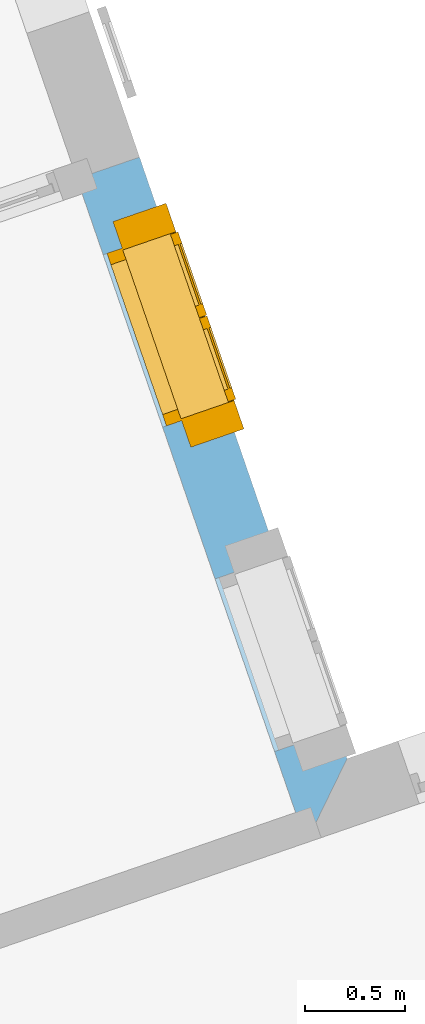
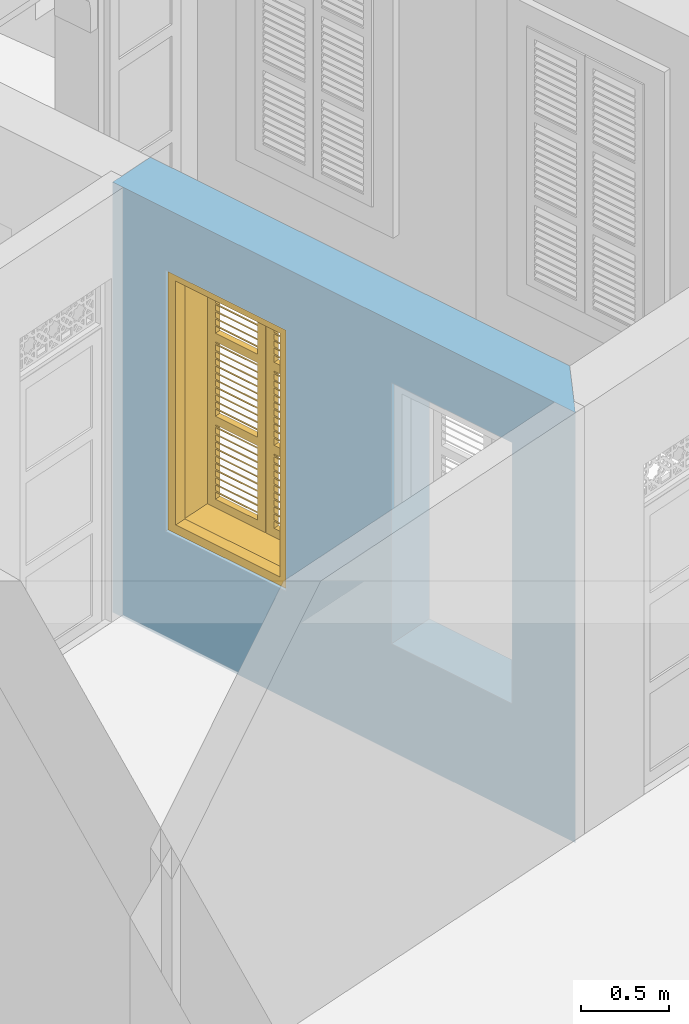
# One storey, part 8 of 16: 1 window, 2 openings, plus 1 element that does not belong to this part.
"""IFC4 building model written with IfcOpenShell, lengths in metres."""

import ifcopenshell
import ifcopenshell.guid

model = None  # the IFC model being written
_history = None  # IfcOwnerHistory: only IFC2X3 demands one
_inside = {}  # id of a spatial element -> (the spatial element, [elements in it])
_under = {}  # id of a project, library or spatial element -> (it, [spatial elements below it])
_declared = {}  # id of a project -> (the project, [libraries it declares])
_typed = {}  # id of a type object -> (the type object, [elements of that type])
_made_of = {}  # id of a material, layer set ... -> (it, [elements and type objects made of it])


def new_model(schema):
    """Start an empty IFC model of exactly this schema.

    Asked for "IFC4X3", IfcOpenShell would pick the latest addendum, in which some entities
    have other attributes; the version numbers below select the first issue.
    IFC2X3 requires an IfcOwnerHistory on every rooted entity: one is made here for all.
    """
    global model, _history
    if schema == "IFC4X3":
        model = ifcopenshell.file(schema_version=(4, 3, 0, 0))
    else:
        model = ifcopenshell.file(schema=schema)
    _inside.clear()
    _under.clear()
    _declared.clear()
    _typed.clear()
    _made_of.clear()
    _history = None
    if model.schema == "IFC2X3":
        org = make("IfcOrganization", Name="unknown")
        user = make(
            "IfcPersonAndOrganization",
            ThePerson=make("IfcPerson", FamilyName="unknown"),
            TheOrganization=org,
        )
        app = make(
            "IfcApplication",
            ApplicationDeveloper=org,
            Version="unknown",
            ApplicationFullName="unknown",
            ApplicationIdentifier="unknown",
        )
        _history = make(
            "IfcOwnerHistory",
            OwningUser=user,
            OwningApplication=app,
            ChangeAction="ADDED",
            CreationDate=0,
        )
    return model


def make(cls, **values):
    """One entity of the class cls with the attributes given. An attribute that is None is left unset."""
    return model.create_entity(
        cls, **{name: value for name, value in values.items() if value is not None}
    )


def rooted(cls, **values):
    """An entity with a GlobalId (a new one), such as an element, a storey or a relation."""
    return make(cls, GlobalId=ifcopenshell.guid.new(), OwnerHistory=_history, **values)


def si_unit(unit_type, name, prefix=None):
    """IfcSIUnit, for example si_unit("LENGTHUNIT", "METRE", prefix="MILLI")."""
    return make("IfcSIUnit", UnitType=unit_type, Prefix=prefix, Name=name)


def assignment(units):
    """IfcUnitAssignment: the units of a project."""
    return None if units is None else make("IfcUnitAssignment", Units=units)


def point(xyz):
    """IfcCartesianPoint."""
    return None if xyz is None else make("IfcCartesianPoint", Coordinates=xyz)


def direction(xyz):
    """IfcDirection."""
    return None if xyz is None else make("IfcDirection", DirectionRatios=xyz)


def frame(location, z_axis=None, x_axis=None):
    """IfcAxis2Placement3D, a coordinate frame: its origin and axes. An axis left out is left unset."""
    return make(
        "IfcAxis2Placement3D",
        Location=point(location),
        Axis=direction(z_axis),
        RefDirection=direction(x_axis),
    )


def origin():
    """The frame at (0, 0, 0) with its axes left unset."""
    return frame((0.0, 0.0, 0.0))


def origin_with_axes():
    """The frame at (0, 0, 0) with the z axis (0, 0, 1) and the x axis (1, 0, 0) written out."""
    return frame((0.0, 0.0, 0.0), z_axis=(0.0, 0.0, 1.0), x_axis=(1.0, 0.0, 0.0))


def place(relative_to, where):
    """IfcLocalPlacement: puts the frame where relative to a parent placement (None: the world)."""
    return make(
        "IfcLocalPlacement", PlacementRelTo=relative_to, RelativePlacement=where
    )


def context(
    kind, dimensions, precision=None, world=None, true_north=None, identifier=None
):
    """IfcGeometricRepresentationContext, for example the 3D "Model" context."""
    return make(
        "IfcGeometricRepresentationContext",
        ContextIdentifier=identifier,
        ContextType=kind,
        CoordinateSpaceDimension=dimensions,
        Precision=precision,
        WorldCoordinateSystem=world,
        TrueNorth=true_north,
    )


def subcontext(parent, identifier, kind, view, scale=None):
    """IfcGeometricRepresentationSubContext, for example "Body" below "Model"."""
    return make(
        "IfcGeometricRepresentationSubContext",
        ContextIdentifier=identifier,
        ContextType=kind,
        ParentContext=parent,
        TargetScale=scale,
        TargetView=view,
    )


def project(units=None, contexts=None):
    """IfcProject with its units and contexts."""
    return rooted(
        "IfcProject",
        Name="project",
        RepresentationContexts=contexts,
        UnitsInContext=assignment(units),
    )


def spatial(cls, under=None, at=None, **own):
    """A site, building, storey or space (cls), placed at a placement, below another one or the project."""
    s = rooted(cls, ObjectPlacement=at, **own)
    if under is not None:
        _under.setdefault(under.id(), (under, []))[1].append(s)
    return s


def polyline(points):
    """IfcPolyline through the points."""
    return make("IfcPolyline", Points=[point(p) for p in points])


def outline(outer, holes=None, kind="AREA"):
    """IfcArbitraryClosedProfileDef: a profile drawn as a closed curve; with holes, ...WithVoids."""
    if holes is None:
        return make("IfcArbitraryClosedProfileDef", ProfileType=kind, OuterCurve=outer)
    return make(
        "IfcArbitraryProfileDefWithVoids",
        ProfileType=kind,
        OuterCurve=outer,
        InnerCurves=holes,
    )


def extrude(swept, where, along, depth):
    """IfcExtrudedAreaSolid: the profile swept, set in the frame where, extruded along a direction by depth."""
    return make(
        "IfcExtrudedAreaSolid",
        SweptArea=swept,
        Position=where,
        ExtrudedDirection=direction(along),
        Depth=depth,
    )


def faces_of(points, faces, orient=None, outer=None):
    """IfcFace entities. A face is a list of loops; a loop is a list of indices into points, from 0.

    orient and outer hold one flag for each loop. By default every Orientation is true, the
    first loop of a face is its IfcFaceOuterBound and the others are IfcFaceBound.
    """
    made = []
    for i, loops in enumerate(faces):
        bounds = []
        for j, loop in enumerate(loops):
            is_outer = j == 0 if outer is None else outer[i][j]
            bounds.append(
                make(
                    "IfcFaceOuterBound" if is_outer else "IfcFaceBound",
                    Bound=make("IfcPolyLoop", Polygon=[points[k] for k in loop]),
                    Orientation=True if orient is None else orient[i][j],
                )
            )
        made.append(make("IfcFace", Bounds=bounds))
    return made


def faceted_brep(points, faces, orient=None, outer=None, voids=None):
    """IfcFacetedBrep: a solid bounded by flat faces; with voids (closed shells), ...WithVoids."""
    shared = [point(p) for p in points]
    hull = make("IfcClosedShell", CfsFaces=faces_of(shared, faces, orient, outer))
    if voids is None:
        return make("IfcFacetedBrep", Outer=hull)
    return make(
        "IfcFacetedBrepWithVoids",
        Outer=hull,
        Voids=[
            make(cls, CfsFaces=faces_of(shared, fs, o, b)) for cls, fs, o, b in voids
        ],
    )


def shape(context_of_items, identifier, shape_type, items):
    """IfcShapeRepresentation: the items that make up one representation, for example the "Body"."""
    return make(
        "IfcShapeRepresentation",
        ContextOfItems=context_of_items,
        RepresentationIdentifier=identifier,
        RepresentationType=shape_type,
        Items=items,
    )


def source(mapping_origin, context_of_items, identifier, shape_type, items):
    """IfcRepresentationMap: a shape defined once, which mapped items show again and again."""
    return make(
        "IfcRepresentationMap",
        MappingOrigin=mapping_origin,
        MappedRepresentation=shape(context_of_items, identifier, shape_type, items),
    )


def transform(
    local_origin,
    x_axis=None,
    y_axis=None,
    z_axis=None,
    scale=None,
    scale2=None,
    scale3=None,
    uniform=True,
):
    """IfcCartesianTransformationOperator3D, or its non-uniform kind. x_axis, y_axis, z_axis: its Axis1, 2, 3."""
    if uniform:
        return make(
            "IfcCartesianTransformationOperator3D",
            Axis1=direction(x_axis),
            Axis2=direction(y_axis),
            LocalOrigin=point(local_origin),
            Scale=scale,
            Axis3=direction(z_axis),
        )
    return make(
        "IfcCartesianTransformationOperator3DnonUniform",
        Axis1=direction(x_axis),
        Axis2=direction(y_axis),
        LocalOrigin=point(local_origin),
        Scale=scale,
        Axis3=direction(z_axis),
        Scale2=scale2,
        Scale3=scale3,
    )


def mapped(mapping_source, mapping_target):
    """IfcMappedItem: shows the shape of a source again, moved by a transform."""
    return make(
        "IfcMappedItem", MappingSource=mapping_source, MappingTarget=mapping_target
    )


def material(Name=None, Category=None):
    """IfcMaterial."""
    return make("IfcMaterial", Name=Name, Category=Category)


def layer(
    of_material, thickness, ventilated=None, Name=None, Category=None, Priority=None
):
    """IfcMaterialLayer: one layer of a wall or slab, of a material (None: an air gap)."""
    return make(
        "IfcMaterialLayer",
        Material=of_material,
        LayerThickness=thickness,
        IsVentilated=ventilated,
        Name=Name,
        Category=Category,
        Priority=Priority,
    )


def layer_set(layers, Name=None):
    """IfcMaterialLayerSet."""
    return make("IfcMaterialLayerSet", MaterialLayers=layers, LayerSetName=Name)


def layer_usage(for_layer_set, set_direction, sense, offset, extent=None):
    """IfcMaterialLayerSetUsage: how a layer set lies in its element."""
    return make(
        "IfcMaterialLayerSetUsage",
        ForLayerSet=for_layer_set,
        LayerSetDirection=set_direction,
        DirectionSense=sense,
        OffsetFromReferenceLine=offset,
        ReferenceExtent=extent,
    )


def made_of(thing, what):
    """Note that an element or type object is made of a material, layer set ...; save() writes the relation."""
    if what is not None:
        _made_of.setdefault(what.id(), (what, []))[1].append(thing)
    return thing


def type_object(cls, material=None, **own):
    """A type object (cls), such as IfcWallType, which elements share."""
    return made_of(rooted(cls, **own), material)


def type_shapes(of_type, sources):
    """Give a type object the sources (RepresentationMaps) that its elements show as mapped items."""
    of_type.RepresentationMaps = sources


def element(
    cls,
    number,
    at=None,
    inside=None,
    cuts=None,
    type_object=None,
    material=None,
    context=None,
    identifier="Body",
    shape_type=None,
    held_by="IfcProductDefinitionShape",
    body=None,
    shapes=None,
    **own,
):
    """One element of the class cls, such as IfcWall. Its Tag is "e" and its number.

    at: its placement. inside: the storey or other place that contains it. cuts: it is an
    opening in that element (IfcRelVoidsElement). A single representation is given by context,
    identifier, shape_type and body (its items); several are given by shapes. held_by: the class
    of the entity that holds the representations. save() writes the other relations.
    """
    e = rooted(cls, Tag="e%d" % number, ObjectPlacement=at, **own)
    if body is not None:
        shapes = [shape(context, identifier, shape_type, body)]
    if shapes is not None:
        e.Representation = make(held_by, Representations=shapes)
    if inside is not None:
        _inside.setdefault(inside.id(), (inside, []))[1].append(e)
    if cuts is not None:
        rooted(
            "IfcRelVoidsElement", RelatingBuildingElement=cuts, RelatedOpeningElement=e
        )
    if type_object is not None:
        _typed.setdefault(type_object.id(), (type_object, []))[1].append(e)
    return made_of(e, material)


def fill(opening, filler):
    """IfcRelFillsElement: the door or window that sits in an opening."""
    return rooted(
        "IfcRelFillsElement",
        RelatingOpeningElement=opening,
        RelatedBuildingElement=filler,
    )


def aggregate(whole, parts):
    """IfcRelAggregates: a whole, such as a stair, and the parts it consists of."""
    return rooted("IfcRelAggregates", RelatingObject=whole, RelatedObjects=parts)


def save(model, path):
    """Write the relations noted so far, then the file.

    IfcRelAggregates (storeys below a building ...), IfcRelContainedInSpatialStructure (elements
    in a storey), IfcRelDefinesByType, IfcRelAssociatesMaterial and IfcRelDeclares: one each for
    every whole, place, type object, material and project.
    """
    for whole, parts in _under.values():
        aggregate(whole, parts)
    for where, things in _inside.values():
        rooted(
            "IfcRelContainedInSpatialStructure",
            RelatedElements=things,
            RelatingStructure=where,
        )
    for kind, things in _typed.values():
        rooted("IfcRelDefinesByType", RelatedObjects=things, RelatingType=kind)
    for what, things in _made_of.values():
        rooted("IfcRelAssociatesMaterial", RelatedObjects=things, RelatingMaterial=what)
    for by, libraries in _declared.values():
        rooted("IfcRelDeclares", RelatingContext=by, RelatedDefinitions=libraries)
    model.write(path)


model = new_model("IFC4")

# Units and contexts
model_context = context("Model", 3, world=origin_with_axes())
body_context = subcontext(model_context, "Body", "Model", "MODEL_VIEW")
ifc_project = project(units=[si_unit("PLANEANGLEUNIT", "RADIAN"), si_unit("MASSUNIT", "GRAM", prefix="KILO"), si_unit("FORCEUNIT", "NEWTON", prefix="KILO"), si_unit("LENGTHUNIT", "METRE"), si_unit("AREAUNIT", "SQUARE_METRE"), si_unit("VOLUMEUNIT", "CUBIC_METRE")], contexts=[model_context, model_context])

# Site, building, storey
site_placement = place(None, origin_with_axes())
site = spatial("IfcSite", under=ifc_project, at=site_placement, Name="Site plot-8", CompositionType="ELEMENT")
building_placement = place(None, origin_with_axes())
building = spatial("IfcBuilding", under=site, at=building_placement, Name="Building plot-8", CompositionType="ELEMENT")
storey_placement = place(None, origin_with_axes())
storey = spatial("IfcBuildingStorey", under=building, at=storey_placement, Name="plot-8 0", CompositionType="ELEMENT", Elevation=0.0)

# Wall, openings, window
ifc_material = material(Name="Masonry")
ifc_layer = layer(ifc_material, 0.33, ventilated=False)
ifc_layer_set = layer_set([ifc_layer], Name="exterior_0.08_0.25")
ifc_layer_usage = layer_usage(ifc_layer_set, "AXIS2", "POSITIVE", -0.25)
wall_type = type_object("IfcWallType", Name="exterior_0.08_0.25", PredefinedType="SOLIDWALL", material=ifc_layer_set)
wall_placement = place(storey_placement, frame((-9.69136528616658, 15.0297125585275, 0.0), z_axis=(0.0, 0.0, 1.0), x_axis=(-0.326112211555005, 0.945331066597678, 0.0)))
wall = element("IfcWall", 1, at=wall_placement, inside=storey, type_object=wall_type, material=ifc_layer_usage, Name="exterior", context=body_context, shape_type="SweptSolid", body=[
    extrude(outline(polyline([(-0.0799999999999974, 0.0799999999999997), (0.249999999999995, -0.250000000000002), (3.42187846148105, -0.25), (3.42187846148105, 0.0800000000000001), (-0.0799999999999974, 0.0799999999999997)])), origin_with_axes(), (0.0, 0.0, 1.0), 3.0),
])
opening_1_placement = place(wall_placement, frame((0.401408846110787, 0.0, 0.75)))
element("IfcOpeningElement", 2, at=opening_1_placement, cuts=wall, Name="My Opening", ObjectType="Opening", context=body_context, shape_type="SweptSolid", body=[
    extrude(outline(polyline([(0.0, -0.27), (0.909999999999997, -0.269999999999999), (0.909999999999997, 1.1), (-7.21644966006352e-16, 1.1), (0.0, -0.27)])), origin_with_axes(), (0.0, 0.0, 1.0), 1.82),
])
opening_2_placement = place(wall_placement, frame((2.11140884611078, 0.0, 0.75)))
opening_2 = element("IfcOpeningElement", 3, at=opening_2_placement, cuts=wall, Name="My Opening", ObjectType="Opening", context=body_context, shape_type="SweptSolid", body=[
    extrude(outline(polyline([(0.0, -0.269999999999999), (0.909999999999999, -0.269999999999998), (0.91, 1.1), (1.33226762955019e-15, 1.1), (0.0, -0.269999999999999)])), origin_with_axes(), (0.0, 0.0, 1.0), 1.82),
])
window_type = type_object("IfcWindowType", Name="shuttered_big", PartitioningType="DOUBLE_PANEL_HORIZONTAL", PredefinedType="NOTDEFINED")
shared_shape = source(origin(), body_context, "Body", "Brep", [
    faceted_brep([(0.074, 0.0, 0.810667), (0.393, 0.0, 0.810667), (0.393, 0.0, 0.800667), (0.074, 0.0, 0.800667), (0.074, -0.04, 0.770667), (0.393, -0.04, 0.770667), (0.393, -0.04, 0.760667), (0.074, -0.04, 0.760667), (0.517, 0.0, 0.232), (0.836, 0.0, 0.232), (0.836, 0.0, 0.222), (0.517, 0.0, 0.222), (0.517, -0.04, 0.192), (0.836, -0.04, 0.192), (0.836, -0.04, 0.182), (0.517, -0.04, 0.182), (0.517, 0.0, 0.532), (0.836, 0.0, 0.532), (0.836, 0.0, 0.522), (0.517, 0.0, 0.522), (0.517, -0.04, 0.492), (0.836, -0.04, 0.492), (0.836, -0.04, 0.482), (0.517, -0.04, 0.482), (0.517, 0.0, 0.482), (0.836, 0.0, 0.482), (0.836, 0.0, 0.472), (0.517, 0.0, 0.472), (0.517, -0.04, 0.442), (0.836, -0.04, 0.442), (0.836, -0.04, 0.432), (0.517, -0.04, 0.432), (0.517, 0.0, 0.582), (0.836, 0.0, 0.582), (0.836, 0.0, 0.572), (0.517, 0.0, 0.572), (0.517, -0.04, 0.542), (0.836, -0.04, 0.542), (0.836, -0.04, 0.532), (0.517, -0.04, 0.532), (0.517, 0.0, 0.182), (0.836, 0.0, 0.182), (0.836, 0.0, 0.172), (0.517, 0.0, 0.172), (0.517, -0.04, 0.142), (0.836, -0.04, 0.142), (0.836, -0.04, 0.132), (0.517, -0.04, 0.132), (0.517, 0.0, 0.382), (0.836, 0.0, 0.382), (0.836, 0.0, 0.372), (0.517, 0.0, 0.372), (0.517, -0.04, 0.342), (0.836, -0.04, 0.342), (0.836, -0.04, 0.332), (0.517, -0.04, 0.332), (0.517, 0.0, 0.432), (0.836, 0.0, 0.432), (0.836, 0.0, 0.422), (0.517, 0.0, 0.422), (0.517, -0.04, 0.392), (0.836, -0.04, 0.392), (0.836, -0.04, 0.382), (0.517, -0.04, 0.382), (0.517, 0.0, 0.132), (0.836, 0.0, 0.132), (0.836, 0.0, 0.122), (0.517, 0.0, 0.122), (0.517, -0.04, 0.092), (0.836, -0.04, 0.092), (0.836, -0.04, 0.082), (0.517, -0.04, 0.082), (0.517, 0.0, 0.282), (0.836, 0.0, 0.282), (0.836, 0.0, 0.272), (0.517, 0.0, 0.272), (0.517, -0.04, 0.242), (0.836, -0.04, 0.242), (0.836, -0.04, 0.232), (0.517, -0.04, 0.232), (0.517, 0.0, 0.332), (0.836, 0.0, 0.332), (0.836, 0.0, 0.322), (0.517, 0.0, 0.322), (0.517, -0.04, 0.292), (0.836, -0.04, 0.292), (0.836, -0.04, 0.282), (0.517, -0.04, 0.282), (0.517, 0.0, 0.810667), (0.836, 0.0, 0.810667), (0.836, 0.0, 0.800667), (0.517, 0.0, 0.800667), (0.517, -0.04, 0.770667), (0.836, -0.04, 0.770667), (0.836, -0.04, 0.760667), (0.517, -0.04, 0.760667), (0.517, 0.0, 1.110667), (0.836, 0.0, 1.110667), (0.836, 0.0, 1.100667), (0.517, 0.0, 1.100667), (0.517, -0.04, 1.070667), (0.836, -0.04, 1.070667), (0.836, -0.04, 1.060667), (0.517, -0.04, 1.060667), (0.517, 0.0, 1.060667), (0.836, 0.0, 1.060667), (0.836, 0.0, 1.050667), (0.517, 0.0, 1.050667), (0.517, -0.04, 1.020667), (0.836, -0.04, 1.020667), (0.836, -0.04, 1.010667), (0.517, -0.04, 1.010667), (0.517, 0.0, 1.160667), (0.836, 0.0, 1.160667), (0.836, 0.0, 1.150667), (0.517, 0.0, 1.150667), (0.517, -0.04, 1.120667), (0.836, -0.04, 1.120667), (0.836, -0.04, 1.110667), (0.517, -0.04, 1.110667), (0.517, 0.0, 0.760667), (0.836, 0.0, 0.760667), (0.836, 0.0, 0.750667), (0.517, 0.0, 0.750667), (0.517, -0.04, 0.720667), (0.836, -0.04, 0.720667), (0.836, -0.04, 0.710667), (0.517, -0.04, 0.710667), (0.517, 0.0, 0.960667), (0.836, 0.0, 0.960667), (0.836, 0.0, 0.950667), (0.517, 0.0, 0.950667), (0.517, -0.04, 0.920667), (0.836, -0.04, 0.920667), (0.836, -0.04, 0.910667), (0.517, -0.04, 0.910667), (0.517, 0.0, 1.010667), (0.836, 0.0, 1.010667), (0.836, 0.0, 1.0), (0.517, 0.0, 1.0), (0.517, -0.04, 0.970667), (0.836, -0.04, 0.970667), (0.836, -0.04, 0.960667), (0.517, -0.04, 0.960667), (0.517, 0.0, 0.710667), (0.836, 0.0, 0.710667), (0.836, 0.0, 0.700667), (0.517, 0.0, 0.700667), (0.517, -0.04, 0.670667), (0.836, -0.04, 0.670667), (0.836, -0.04, 0.660667), (0.517, -0.04, 0.660667), (0.517, 0.0, 0.860667), (0.836, 0.0, 0.860667), (0.836, 0.0, 0.850667), (0.517, 0.0, 0.850667), (0.517, -0.04, 0.820667), (0.836, -0.04, 0.820667), (0.836, -0.04, 0.810667), (0.517, -0.04, 0.810667), (0.517, 0.0, 0.910667), (0.836, 0.0, 0.910667), (0.836, 0.0, 0.900667), (0.517, 0.0, 0.900667), (0.517, -0.04, 0.870667), (0.836, -0.04, 0.870667), (0.836, -0.04, 0.860667), (0.517, -0.04, 0.860667), (0.517, 0.0, 1.389333), (0.836, 0.0, 1.389333), (0.836, 0.0, 1.379333), (0.517, 0.0, 1.379333), (0.517, -0.04, 1.349333), (0.836, -0.04, 1.349333), (0.836, -0.04, 1.339333), (0.517, -0.04, 1.339333), (0.517, 0.0, 1.689333), (0.836, 0.0, 1.689333), (0.836, 0.0, 1.679333), (0.517, 0.0, 1.679333), (0.517, -0.04, 1.649333), (0.836, -0.04, 1.649333), (0.836, -0.04, 1.639333), (0.517, -0.04, 1.639333), (0.517, 0.0, 1.639333), (0.836, 0.0, 1.639333), (0.836, 0.0, 1.629333), (0.517, 0.0, 1.629333), (0.517, -0.04, 1.599333), (0.836, -0.04, 1.599333), (0.836, -0.04, 1.589333), (0.517, -0.04, 1.589333), (0.517, 0.0, 1.739333), (0.836, 0.0, 1.739333), (0.836, 0.0, 1.729333), (0.517, 0.0, 1.729333), (0.517, -0.04, 1.699333), (0.836, -0.04, 1.699333), (0.836, -0.04, 1.689333), (0.517, -0.04, 1.689333), (0.517, 0.0, 1.339333), (0.836, 0.0, 1.339333), (0.836, 0.0, 1.329333), (0.517, 0.0, 1.329333), (0.517, -0.04, 1.299333), (0.836, -0.04, 1.299333), (0.836, -0.04, 1.289333), (0.517, -0.04, 1.289333), (0.517, 0.0, 1.539333), (0.836, 0.0, 1.539333), (0.836, 0.0, 1.529333), (0.517, 0.0, 1.529333), (0.517, -0.04, 1.499333), (0.836, -0.04, 1.499333), (0.836, -0.04, 1.489333), (0.517, -0.04, 1.489333), (0.517, 0.0, 1.589333), (0.836, 0.0, 1.589333), (0.836, 0.0, 1.579333), (0.517, 0.0, 1.579333), (0.517, -0.04, 1.549333), (0.836, -0.04, 1.549333), (0.836, -0.04, 1.539333), (0.517, -0.04, 1.539333), (0.517, 0.0, 1.289333), (0.836, 0.0, 1.289333), (0.836, 0.0, 1.279333), (0.517, 0.0, 1.279333), (0.517, -0.04, 1.249333), (0.836, -0.04, 1.249333), (0.836, -0.04, 1.239333), (0.517, -0.04, 1.239333), (0.517, 0.0, 1.439333), (0.836, 0.0, 1.439333), (0.836, 0.0, 1.429333), (0.517, 0.0, 1.429333), (0.517, -0.04, 1.399333), (0.836, -0.04, 1.399333), (0.836, -0.04, 1.389333), (0.517, -0.04, 1.389333), (0.517, 0.0, 1.489333), (0.836, 0.0, 1.489333), (0.836, 0.0, 1.479333), (0.517, 0.0, 1.479333), (0.517, -0.04, 1.449333), (0.836, -0.04, 1.449333), (0.836, -0.04, 1.439333), (0.517, -0.04, 1.439333), (0.074, 0.0, 0.232), (0.393, 0.0, 0.232), (0.393, 0.0, 0.222), (0.074, 0.0, 0.222), (0.074, -0.04, 0.192), (0.393, -0.04, 0.192), (0.393, -0.04, 0.182), (0.074, -0.04, 0.182), (0.074, 0.0, 0.532), (0.393, 0.0, 0.532), (0.393, 0.0, 0.522), (0.074, 0.0, 0.522), (0.074, -0.04, 0.492), (0.393, -0.04, 0.492), (0.393, -0.04, 0.482), (0.074, -0.04, 0.482), (0.074, 0.0, 0.482), (0.393, 0.0, 0.482), (0.393, 0.0, 0.472), (0.074, 0.0, 0.472), (0.074, -0.04, 0.442), (0.393, -0.04, 0.442), (0.393, -0.04, 0.432), (0.074, -0.04, 0.432), (0.074, 0.0, 0.582), (0.393, 0.0, 0.582), (0.393, 0.0, 0.572), (0.074, 0.0, 0.572), (0.074, -0.04, 0.542), (0.393, -0.04, 0.542), (0.393, -0.04, 0.532), (0.074, -0.04, 0.532), (0.074, 0.0, 0.182), (0.393, 0.0, 0.182), (0.393, 0.0, 0.172), (0.074, 0.0, 0.172), (0.074, -0.04, 0.142), (0.393, -0.04, 0.142), (0.393, -0.04, 0.132), (0.074, -0.04, 0.132), (0.074, 0.0, 0.382), (0.393, 0.0, 0.382), (0.393, 0.0, 0.372), (0.074, 0.0, 0.372), (0.074, -0.04, 0.342), (0.393, -0.04, 0.342), (0.393, -0.04, 0.332), (0.074, -0.04, 0.332), (0.074, 0.0, 0.432), (0.393, 0.0, 0.432), (0.393, 0.0, 0.422), (0.074, 0.0, 0.422), (0.074, -0.04, 0.392), (0.393, -0.04, 0.392), (0.393, -0.04, 0.382), (0.074, -0.04, 0.382), (0.074, 0.0, 0.132), (0.393, 0.0, 0.132), (0.393, 0.0, 0.122), (0.074, 0.0, 0.122), (0.074, -0.04, 0.092), (0.393, -0.04, 0.092), (0.393, -0.04, 0.082), (0.074, -0.04, 0.082), (0.074, 0.0, 0.282), (0.393, 0.0, 0.282), (0.393, 0.0, 0.272), (0.074, 0.0, 0.272), (0.074, -0.04, 0.242), (0.393, -0.04, 0.242), (0.393, -0.04, 0.232), (0.074, -0.04, 0.232), (0.074, 0.0, 0.332), (0.393, 0.0, 0.332), (0.393, 0.0, 0.322), (0.074, 0.0, 0.322), (0.074, -0.04, 0.292), (0.393, -0.04, 0.292), (0.393, -0.04, 0.282), (0.074, -0.04, 0.282), (0.074, 0.0, 1.110667), (0.393, 0.0, 1.110667), (0.393, 0.0, 1.100667), (0.074, 0.0, 1.100667), (0.074, -0.04, 1.070667), (0.393, -0.04, 1.070667), (0.393, -0.04, 1.060667), (0.074, -0.04, 1.060667), (0.074, 0.0, 1.060667), (0.393, 0.0, 1.060667), (0.393, 0.0, 1.050667), (0.074, 0.0, 1.050667), (0.074, -0.04, 1.020667), (0.393, -0.04, 1.020667), (0.393, -0.04, 1.010667), (0.074, -0.04, 1.010667), (0.074, 0.0, 1.160667), (0.393, 0.0, 1.160667), (0.393, 0.0, 1.150667), (0.074, 0.0, 1.150667), (0.074, -0.04, 1.120667), (0.393, -0.04, 1.120667), (0.393, -0.04, 1.110667), (0.074, -0.04, 1.110667), (0.074, 0.0, 0.760667), (0.393, 0.0, 0.760667), (0.393, 0.0, 0.750667), (0.074, 0.0, 0.750667), (0.074, -0.04, 0.720667), (0.393, -0.04, 0.720667), (0.393, -0.04, 0.710667), (0.074, -0.04, 0.710667), (0.074, 0.0, 0.960667), (0.393, 0.0, 0.960667), (0.393, 0.0, 0.950667), (0.074, 0.0, 0.950667), (0.074, -0.04, 0.920667), (0.393, -0.04, 0.920667), (0.393, -0.04, 0.910667), (0.074, -0.04, 0.910667), (0.074, 0.0, 1.010667), (0.393, 0.0, 1.010667), (0.393, 0.0, 1.0), (0.074, 0.0, 1.0), (0.074, -0.04, 0.970667), (0.393, -0.04, 0.970667), (0.393, -0.04, 0.960667), (0.074, -0.04, 0.960667), (0.074, 0.0, 0.710667), (0.393, 0.0, 0.710667), (0.393, 0.0, 0.700667), (0.074, 0.0, 0.700667), (0.074, -0.04, 0.670667), (0.393, -0.04, 0.670667), (0.393, -0.04, 0.660667), (0.074, -0.04, 0.660667), (0.074, 0.0, 0.860667), (0.393, 0.0, 0.860667), (0.393, 0.0, 0.850667), (0.074, 0.0, 0.850667), (0.074, -0.04, 0.820667), (0.393, -0.04, 0.820667), (0.393, -0.04, 0.810667), (0.074, -0.04, 0.810667), (0.074, 0.0, 0.910667), (0.393, 0.0, 0.910667), (0.393, 0.0, 0.900667), (0.074, 0.0, 0.900667), (0.074, -0.04, 0.870667), (0.393, -0.04, 0.870667), (0.393, -0.04, 0.860667), (0.074, -0.04, 0.860667), (0.074, 0.0, 1.389333), (0.393, 0.0, 1.389333), (0.393, 0.0, 1.379333), (0.074, 0.0, 1.379333), (0.074, -0.04, 1.349333), (0.393, -0.04, 1.349333), (0.393, -0.04, 1.339333), (0.074, -0.04, 1.339333), (0.074, 0.0, 1.689333), (0.393, 0.0, 1.689333), (0.393, 0.0, 1.679333), (0.074, 0.0, 1.679333), (0.074, -0.04, 1.649333), (0.393, -0.04, 1.649333), (0.393, -0.04, 1.639333), (0.074, -0.04, 1.639333), (0.074, 0.0, 1.639333), (0.393, 0.0, 1.639333), (0.393, 0.0, 1.629333), (0.074, 0.0, 1.629333), (0.074, -0.04, 1.599333), (0.393, -0.04, 1.599333), (0.393, -0.04, 1.589333), (0.074, -0.04, 1.589333), (0.074, 0.0, 1.739333), (0.393, 0.0, 1.739333), (0.393, 0.0, 1.729333), (0.074, 0.0, 1.729333), (0.074, -0.04, 1.699333), (0.393, -0.04, 1.699333), (0.393, -0.04, 1.689333), (0.074, -0.04, 1.689333), (0.074, 0.0, 1.339333), (0.393, 0.0, 1.339333), (0.393, 0.0, 1.329333), (0.074, 0.0, 1.329333), (0.074, -0.04, 1.299333), (0.393, -0.04, 1.299333), (0.393, -0.04, 1.289333), (0.074, -0.04, 1.289333), (0.074, 0.0, 1.539333), (0.393, 0.0, 1.539333), (0.393, 0.0, 1.529333), (0.074, 0.0, 1.529333), (0.074, -0.04, 1.499333), (0.393, -0.04, 1.499333), (0.393, -0.04, 1.489333), (0.074, -0.04, 1.489333), (0.074, 0.0, 1.589333), (0.393, 0.0, 1.589333), (0.393, 0.0, 1.579333), (0.074, 0.0, 1.579333), (0.074, -0.04, 1.549333), (0.393, -0.04, 1.549333), (0.393, -0.04, 1.539333), (0.074, -0.04, 1.539333), (0.074, 0.0, 1.289333), (0.393, 0.0, 1.289333), (0.393, 0.0, 1.279333), (0.074, 0.0, 1.279333), (0.074, -0.04, 1.249333), (0.393, -0.04, 1.249333), (0.393, -0.04, 1.239333), (0.074, -0.04, 1.239333), (0.074, 0.0, 1.439333), (0.393, 0.0, 1.439333), (0.393, 0.0, 1.429333), (0.074, 0.0, 1.429333), (0.074, -0.04, 1.399333), (0.393, -0.04, 1.399333), (0.393, -0.04, 1.389333), (0.074, -0.04, 1.389333), (0.074, 0.0, 1.489333), (0.393, 0.0, 1.489333), (0.393, 0.0, 1.479333), (0.074, 0.0, 1.479333), (0.074, -0.04, 1.449333), (0.393, -0.04, 1.449333), (0.393, -0.04, 1.439333), (0.074, -0.04, 1.439333), (0.517, -0.04, 0.072), (0.457, -0.04, 0.012), (0.896, -0.04, 0.012), (0.836, -0.04, 0.072), (0.457, -0.04, 0.590667), (0.517, -0.04, 0.590667), (0.457, 0.0, 0.012), (0.896, 0.0, 0.012), (0.836, -0.04, 0.590667), (0.896, -0.04, 0.590667), (0.836, 0.0, 0.072), (0.517, 0.0, 0.072), (0.457, 0.0, 0.590667), (0.517, 0.0, 0.590667), (0.517, -0.04, 0.650667), (0.457, -0.04, 0.650667), (0.896, 0.0, 0.590667), (0.836, 0.0, 0.590667), (0.836, -0.04, 0.650667), (0.896, -0.04, 0.650667), (0.457, 0.0, 0.650667), (0.457, -0.04, 1.169333), (0.517, -0.04, 1.169333), (0.896, 0.0, 0.650667), (0.836, -0.04, 1.169333), (0.896, -0.04, 1.169333), (0.457, 0.0, 1.169333), (0.517, 0.0, 0.650667), (0.836, 0.0, 0.650667), (0.517, 0.0, 1.169333), (0.517, -0.04, 1.229333), (0.457, -0.04, 1.229333), (0.896, 0.0, 1.169333), (0.836, 0.0, 1.169333), (0.836, -0.04, 1.229333), (0.896, -0.04, 1.229333), (0.457, 0.0, 1.229333), (0.517, -0.04, 1.748), (0.457, -0.04, 1.808), (0.896, 0.0, 1.229333), (0.896, -0.04, 1.808), (0.836, -0.04, 1.748), (0.457, 0.0, 1.808), (0.517, 0.0, 1.229333), (0.836, 0.0, 1.229333), (0.517, 0.0, 1.748), (0.896, 0.0, 1.808), (0.836, 0.0, 1.748), (0.074, -0.04, 0.072), (0.014, -0.04, 0.012), (0.453, -0.04, 0.012), (0.393, -0.04, 0.072), (0.014, -0.04, 0.590667), (0.074, -0.04, 0.590667), (0.014, 0.0, 0.012), (0.453, 0.0, 0.012), (0.393, -0.04, 0.590667), (0.453, -0.04, 0.590667), (0.393, 0.0, 0.072), (0.074, 0.0, 0.072), (0.014, 0.0, 0.590667), (0.074, 0.0, 0.590667), (0.074, -0.04, 0.650667), (0.014, -0.04, 0.650667), (0.453, 0.0, 0.590667), (0.393, 0.0, 0.590667), (0.393, -0.04, 0.650667), (0.453, -0.04, 0.650667), (0.014, 0.0, 0.650667), (0.014, -0.04, 1.169333), (0.074, -0.04, 1.169333), (0.453, 0.0, 0.650667), (0.393, -0.04, 1.169333), (0.453, -0.04, 1.169333), (0.014, 0.0, 1.169333), (0.074, 0.0, 0.650667), (0.393, 0.0, 0.650667), (0.074, 0.0, 1.169333), (0.074, -0.04, 1.229333), (0.014, -0.04, 1.229333), (0.453, 0.0, 1.169333), (0.393, 0.0, 1.169333), (0.393, -0.04, 1.229333), (0.453, -0.04, 1.229333), (0.014, 0.0, 1.229333), (0.074, -0.04, 1.748), (0.014, -0.04, 1.808), (0.453, 0.0, 1.229333), (0.453, -0.04, 1.808), (0.393, -0.04, 1.748), (0.014, 0.0, 1.808), (0.074, 0.0, 1.229333), (0.393, 0.0, 1.229333), (0.074, 0.0, 1.748), (0.453, 0.0, 1.808), (0.393, 0.0, 1.748), (0.0, 0.33, 1.82), (0.91, 0.33, 1.82), (0.85, 0.33, 1.76), (0.06, 0.33, 1.76), (1.05, -0.03, 1.96), (1.05, 0.25, 1.96), (-0.14, 0.25, 1.96), (-0.14, -0.03, 1.96), (0.0, 0.25, 1.82), (0.91, 0.25, 1.82), (0.9, 0.25, 1.81), (0.01, 0.25, 1.81), (0.85, 0.33, 0.06), (0.91, 0.33, 0.0), (0.85, 0.25, 1.76), (0.06, 0.25, 1.76), (0.0, 0.33, 0.0), (0.06, 0.33, 0.06), (0.0, 0.25, 0.0), (0.910046, 0.25, 1.82), (0.91, 0.25, 0.0), (0.85, 0.25, 0.06), (0.06, 0.25, 0.06), (0.9, 0.25, 0.01), (0.9, -0.03, 0.01), (0.9, -0.03, 1.81), (0.01, -0.03, 0.01), (-0.14, -0.03, -0.14), (1.05, -0.03, -0.14), (0.01, -0.03, 1.81), (0.01, 0.25, 0.01), (1.05, 0.25, -0.14), (-0.14, 0.25, -0.14)], [[[0, 1, 2, 3]], [[1, 0, 4, 5]], [[2, 1, 5, 6]], [[6, 7, 3, 2]], [[7, 4, 0, 3]], [[5, 4, 7, 6]], [[8, 9, 10, 11]], [[12, 13, 9, 8]], [[13, 14, 10, 9]], [[14, 15, 11, 10]], [[15, 12, 8, 11]], [[13, 12, 15, 14]], [[16, 17, 18, 19]], [[20, 21, 17, 16]], [[21, 22, 18, 17]], [[22, 23, 19, 18]], [[23, 20, 16, 19]], [[21, 20, 23, 22]], [[24, 25, 26, 27]], [[28, 29, 25, 24]], [[29, 30, 26, 25]], [[30, 31, 27, 26]], [[31, 28, 24, 27]], [[29, 28, 31, 30]], [[32, 33, 34, 35]], [[36, 37, 33, 32]], [[37, 38, 34, 33]], [[38, 39, 35, 34]], [[39, 36, 32, 35]], [[37, 36, 39, 38]], [[40, 41, 42, 43]], [[44, 45, 41, 40]], [[45, 46, 42, 41]], [[46, 47, 43, 42]], [[47, 44, 40, 43]], [[45, 44, 47, 46]], [[48, 49, 50, 51]], [[52, 53, 49, 48]], [[53, 54, 50, 49]], [[54, 55, 51, 50]], [[55, 52, 48, 51]], [[53, 52, 55, 54]], [[56, 57, 58, 59]], [[60, 61, 57, 56]], [[61, 62, 58, 57]], [[62, 63, 59, 58]], [[63, 60, 56, 59]], [[61, 60, 63, 62]], [[64, 65, 66, 67]], [[68, 69, 65, 64]], [[69, 70, 66, 65]], [[70, 71, 67, 66]], [[71, 68, 64, 67]], [[69, 68, 71, 70]], [[72, 73, 74, 75]], [[76, 77, 73, 72]], [[77, 78, 74, 73]], [[78, 79, 75, 74]], [[79, 76, 72, 75]], [[77, 76, 79, 78]], [[80, 81, 82, 83]], [[84, 85, 81, 80]], [[85, 86, 82, 81]], [[86, 87, 83, 82]], [[87, 84, 80, 83]], [[85, 84, 87, 86]], [[88, 89, 90, 91]], [[92, 93, 89, 88]], [[93, 94, 90, 89]], [[94, 95, 91, 90]], [[95, 92, 88, 91]], [[93, 92, 95, 94]], [[96, 97, 98, 99]], [[100, 101, 97, 96]], [[101, 102, 98, 97]], [[102, 103, 99, 98]], [[103, 100, 96, 99]], [[101, 100, 103, 102]], [[104, 105, 106, 107]], [[108, 109, 105, 104]], [[109, 110, 106, 105]], [[110, 111, 107, 106]], [[111, 108, 104, 107]], [[109, 108, 111, 110]], [[112, 113, 114, 115]], [[116, 117, 113, 112]], [[117, 118, 114, 113]], [[118, 119, 115, 114]], [[119, 116, 112, 115]], [[117, 116, 119, 118]], [[120, 121, 122, 123]], [[124, 125, 121, 120]], [[125, 126, 122, 121]], [[126, 127, 123, 122]], [[127, 124, 120, 123]], [[125, 124, 127, 126]], [[128, 129, 130, 131]], [[132, 133, 129, 128]], [[133, 134, 130, 129]], [[134, 135, 131, 130]], [[135, 132, 128, 131]], [[133, 132, 135, 134]], [[136, 137, 138, 139]], [[140, 141, 137, 136]], [[141, 142, 138, 137]], [[142, 143, 139, 138]], [[143, 140, 136, 139]], [[141, 140, 143, 142]], [[144, 145, 146, 147]], [[148, 149, 145, 144]], [[149, 150, 146, 145]], [[150, 151, 147, 146]], [[151, 148, 144, 147]], [[149, 148, 151, 150]], [[152, 153, 154, 155]], [[156, 157, 153, 152]], [[157, 158, 154, 153]], [[158, 159, 155, 154]], [[159, 156, 152, 155]], [[157, 156, 159, 158]], [[160, 161, 162, 163]], [[164, 165, 161, 160]], [[165, 166, 162, 161]], [[166, 167, 163, 162]], [[167, 164, 160, 163]], [[165, 164, 167, 166]], [[168, 169, 170, 171]], [[172, 173, 169, 168]], [[173, 174, 170, 169]], [[174, 175, 171, 170]], [[175, 172, 168, 171]], [[173, 172, 175, 174]], [[176, 177, 178, 179]], [[180, 181, 177, 176]], [[181, 182, 178, 177]], [[182, 183, 179, 178]], [[183, 180, 176, 179]], [[181, 180, 183, 182]], [[184, 185, 186, 187]], [[188, 189, 185, 184]], [[189, 190, 186, 185]], [[190, 191, 187, 186]], [[191, 188, 184, 187]], [[189, 188, 191, 190]], [[192, 193, 194, 195]], [[196, 197, 193, 192]], [[197, 198, 194, 193]], [[198, 199, 195, 194]], [[199, 196, 192, 195]], [[197, 196, 199, 198]], [[200, 201, 202, 203]], [[204, 205, 201, 200]], [[205, 206, 202, 201]], [[206, 207, 203, 202]], [[207, 204, 200, 203]], [[205, 204, 207, 206]], [[208, 209, 210, 211]], [[212, 213, 209, 208]], [[213, 214, 210, 209]], [[214, 215, 211, 210]], [[215, 212, 208, 211]], [[213, 212, 215, 214]], [[216, 217, 218, 219]], [[220, 221, 217, 216]], [[221, 222, 218, 217]], [[222, 223, 219, 218]], [[223, 220, 216, 219]], [[221, 220, 223, 222]], [[224, 225, 226, 227]], [[228, 229, 225, 224]], [[229, 230, 226, 225]], [[230, 231, 227, 226]], [[231, 228, 224, 227]], [[229, 228, 231, 230]], [[232, 233, 234, 235]], [[236, 237, 233, 232]], [[237, 238, 234, 233]], [[238, 239, 235, 234]], [[239, 236, 232, 235]], [[237, 236, 239, 238]], [[240, 241, 242, 243]], [[244, 245, 241, 240]], [[245, 246, 242, 241]], [[246, 247, 243, 242]], [[247, 244, 240, 243]], [[245, 244, 247, 246]], [[248, 249, 250, 251]], [[252, 253, 249, 248]], [[253, 254, 250, 249]], [[254, 255, 251, 250]], [[255, 252, 248, 251]], [[253, 252, 255, 254]], [[256, 257, 258, 259]], [[260, 261, 257, 256]], [[261, 262, 258, 257]], [[262, 263, 259, 258]], [[263, 260, 256, 259]], [[261, 260, 263, 262]], [[264, 265, 266, 267]], [[268, 269, 265, 264]], [[269, 270, 266, 265]], [[270, 271, 267, 266]], [[271, 268, 264, 267]], [[269, 268, 271, 270]], [[272, 273, 274, 275]], [[276, 277, 273, 272]], [[277, 278, 274, 273]], [[278, 279, 275, 274]], [[279, 276, 272, 275]], [[277, 276, 279, 278]], [[280, 281, 282, 283]], [[284, 285, 281, 280]], [[285, 286, 282, 281]], [[286, 287, 283, 282]], [[287, 284, 280, 283]], [[285, 284, 287, 286]], [[288, 289, 290, 291]], [[292, 293, 289, 288]], [[293, 294, 290, 289]], [[294, 295, 291, 290]], [[295, 292, 288, 291]], [[293, 292, 295, 294]], [[296, 297, 298, 299]], [[300, 301, 297, 296]], [[301, 302, 298, 297]], [[302, 303, 299, 298]], [[303, 300, 296, 299]], [[301, 300, 303, 302]], [[304, 305, 306, 307]], [[308, 309, 305, 304]], [[309, 310, 306, 305]], [[310, 311, 307, 306]], [[311, 308, 304, 307]], [[309, 308, 311, 310]], [[312, 313, 314, 315]], [[316, 317, 313, 312]], [[317, 318, 314, 313]], [[318, 319, 315, 314]], [[319, 316, 312, 315]], [[317, 316, 319, 318]], [[320, 321, 322, 323]], [[324, 325, 321, 320]], [[325, 326, 322, 321]], [[326, 327, 323, 322]], [[327, 324, 320, 323]], [[325, 324, 327, 326]], [[328, 329, 330, 331]], [[332, 333, 329, 328]], [[333, 334, 330, 329]], [[334, 335, 331, 330]], [[335, 332, 328, 331]], [[333, 332, 335, 334]], [[336, 337, 338, 339]], [[340, 341, 337, 336]], [[341, 342, 338, 337]], [[342, 343, 339, 338]], [[343, 340, 336, 339]], [[341, 340, 343, 342]], [[344, 345, 346, 347]], [[348, 349, 345, 344]], [[349, 350, 346, 345]], [[350, 351, 347, 346]], [[351, 348, 344, 347]], [[349, 348, 351, 350]], [[352, 353, 354, 355]], [[356, 357, 353, 352]], [[357, 358, 354, 353]], [[358, 359, 355, 354]], [[359, 356, 352, 355]], [[357, 356, 359, 358]], [[360, 361, 362, 363]], [[364, 365, 361, 360]], [[365, 366, 362, 361]], [[366, 367, 363, 362]], [[367, 364, 360, 363]], [[366, 365, 364, 367]], [[368, 369, 370, 371]], [[372, 373, 369, 368]], [[373, 374, 370, 369]], [[374, 375, 371, 370]], [[375, 372, 368, 371]], [[373, 372, 375, 374]], [[376, 377, 378, 379]], [[380, 381, 377, 376]], [[381, 382, 378, 377]], [[382, 383, 379, 378]], [[383, 380, 376, 379]], [[381, 380, 383, 382]], [[384, 385, 386, 387]], [[388, 389, 385, 384]], [[389, 390, 386, 385]], [[390, 391, 387, 386]], [[391, 388, 384, 387]], [[389, 388, 391, 390]], [[392, 393, 394, 395]], [[396, 397, 393, 392]], [[397, 398, 394, 393]], [[398, 399, 395, 394]], [[399, 396, 392, 395]], [[397, 396, 399, 398]], [[400, 401, 402, 403]], [[404, 405, 401, 400]], [[405, 406, 402, 401]], [[406, 407, 403, 402]], [[407, 404, 400, 403]], [[405, 404, 407, 406]], [[408, 409, 410, 411]], [[412, 413, 409, 408]], [[413, 414, 410, 409]], [[414, 415, 411, 410]], [[415, 412, 408, 411]], [[414, 413, 412, 415]], [[416, 417, 418, 419]], [[420, 421, 417, 416]], [[421, 422, 418, 417]], [[422, 423, 419, 418]], [[423, 420, 416, 419]], [[421, 420, 423, 422]], [[424, 425, 426, 427]], [[428, 429, 425, 424]], [[429, 430, 426, 425]], [[430, 431, 427, 426]], [[431, 428, 424, 427]], [[429, 428, 431, 430]], [[432, 433, 434, 435]], [[436, 437, 433, 432]], [[437, 438, 434, 433]], [[438, 439, 435, 434]], [[439, 436, 432, 435]], [[437, 436, 439, 438]], [[440, 441, 442, 443]], [[444, 445, 441, 440]], [[445, 446, 442, 441]], [[446, 447, 443, 442]], [[447, 444, 440, 443]], [[445, 444, 447, 446]], [[448, 449, 450, 451]], [[452, 453, 449, 448]], [[453, 454, 450, 449]], [[454, 455, 451, 450]], [[455, 452, 448, 451]], [[453, 452, 455, 454]], [[456, 457, 458, 459]], [[460, 461, 457, 456]], [[461, 462, 458, 457]], [[462, 463, 459, 458]], [[463, 460, 456, 459]], [[461, 460, 463, 462]], [[464, 465, 466, 467]], [[468, 469, 465, 464]], [[469, 470, 466, 465]], [[470, 471, 467, 466]], [[471, 468, 464, 467]], [[469, 468, 471, 470]], [[472, 473, 474, 475]], [[476, 477, 473, 472]], [[477, 478, 474, 473]], [[478, 479, 475, 474]], [[479, 476, 472, 475]], [[477, 476, 479, 478]], [[480, 481, 482, 483]], [[484, 481, 480, 485]], [[486, 487, 482, 481]], [[488, 483, 482, 489]], [[480, 483, 490, 491]], [[486, 481, 484, 492]], [[485, 480, 491, 493]], [[485, 494, 495, 484]], [[486, 491, 490, 487]], [[496, 489, 482, 487]], [[483, 488, 497, 490]], [[498, 488, 489, 499]], [[492, 484, 495, 500]], [[486, 492, 493, 491]], [[488, 485, 493, 497]], [[494, 485, 488, 498]], [[501, 495, 494, 502]], [[490, 497, 496, 487]], [[503, 499, 489, 496]], [[504, 498, 499, 505]], [[500, 495, 501, 506]], [[507, 493, 492, 500]], [[493, 507, 508, 497]], [[494, 498, 508, 507]], [[502, 494, 507, 509]], [[502, 510, 511, 501]], [[497, 508, 503, 496]], [[512, 505, 499, 503]], [[498, 504, 513, 508]], [[514, 504, 505, 515]], [[506, 501, 511, 516]], [[500, 506, 509, 507]], [[504, 502, 509, 513]], [[510, 502, 504, 514]], [[510, 517, 518, 511]], [[508, 513, 512, 503]], [[519, 515, 505, 512]], [[515, 520, 521, 514]], [[516, 511, 518, 522]], [[523, 509, 506, 516]], [[509, 523, 524, 513]], [[510, 514, 524, 523]], [[517, 510, 523, 525]], [[518, 517, 521, 520]], [[513, 524, 519, 512]], [[526, 520, 515, 519]], [[514, 521, 527, 524]], [[522, 518, 520, 526]], [[525, 523, 516, 522]], [[521, 517, 525, 527]], [[526, 519, 524, 527]], [[525, 522, 526, 527]], [[528, 529, 530, 531]], [[532, 529, 528, 533]], [[534, 535, 530, 529]], [[536, 531, 530, 537]], [[528, 531, 538, 539]], [[534, 529, 532, 540]], [[533, 528, 539, 541]], [[533, 542, 543, 532]], [[534, 539, 538, 535]], [[544, 537, 530, 535]], [[531, 536, 545, 538]], [[546, 536, 537, 547]], [[540, 532, 543, 548]], [[534, 540, 541, 539]], [[536, 533, 541, 545]], [[542, 533, 536, 546]], [[549, 543, 542, 550]], [[538, 545, 544, 535]], [[551, 547, 537, 544]], [[552, 546, 547, 553]], [[548, 543, 549, 554]], [[555, 541, 540, 548]], [[541, 555, 556, 545]], [[542, 546, 556, 555]], [[550, 542, 555, 557]], [[550, 558, 559, 549]], [[545, 556, 551, 544]], [[560, 553, 547, 551]], [[546, 552, 561, 556]], [[562, 552, 553, 563]], [[554, 549, 559, 564]], [[548, 554, 557, 555]], [[552, 550, 557, 561]], [[558, 550, 552, 562]], [[558, 565, 566, 559]], [[556, 561, 560, 551]], [[567, 563, 553, 560]], [[563, 568, 569, 562]], [[564, 559, 566, 570]], [[571, 557, 554, 564]], [[557, 571, 572, 561]], [[558, 562, 572, 571]], [[565, 558, 571, 573]], [[566, 565, 569, 568]], [[561, 572, 567, 560]], [[574, 568, 563, 567]], [[562, 569, 575, 572]], [[570, 566, 568, 574]], [[573, 571, 564, 570]], [[569, 565, 573, 575]], [[574, 567, 572, 575]], [[573, 570, 574, 575]], [[576, 577, 578, 579]], [[580, 581, 582, 583]], [[576, 584, 585, 577]], [[582, 581, 586, 587]], [[588, 578, 577, 589]], [[579, 578, 590, 591]], [[592, 576, 579, 593]], [[576, 592, 594, 584]], [[595, 584, 591, 590]], [[596, 585, 595]], [[595, 590, 597]], [[595, 597, 596]], [[589, 577, 585, 596]], [[578, 588, 597, 590]], [[589, 592, 593, 588]], [[593, 579, 591, 598]], [[592, 589, 596, 594]], [[598, 591, 584, 594]], [[594, 596, 597, 598]], [[588, 593, 598, 597]], [[599, 600, 601, 586]], [[602, 603, 604, 600]], [[601, 605, 587, 586]], [[600, 599, 606, 602]], [[607, 604, 603, 608]], [[599, 607, 608, 606]], [[605, 602, 606, 587]], [[602, 605, 583, 603]], [[600, 604, 580, 601]], [[580, 583, 605, 601]], [[606, 608, 582, 587]], [[599, 586, 581, 607]], [[582, 608, 603, 583]], [[580, 604, 607, 581]]]),
])
type_shapes(window_type, [shared_shape])
window_placement = place(storey_placement, frame((-10.1246821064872, 17.113743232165, 0.75), z_axis=(0.0, 0.0, 1.0), x_axis=(-0.296762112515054, 0.860251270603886, 0.0)))
window = element("IfcWindow", 4, at=window_placement, inside=storey, type_object=window_type, Name="toilet sahn window", OverallHeight=1.82, OverallWidth=0.91, context=body_context, shape_type="MappedRepresentation", body=[
    mapped(shared_shape, transform((0.0, 0.0, 0.0), scale=1.0)),
])
fill(opening_2, window)

save(model, "model.ifc")
